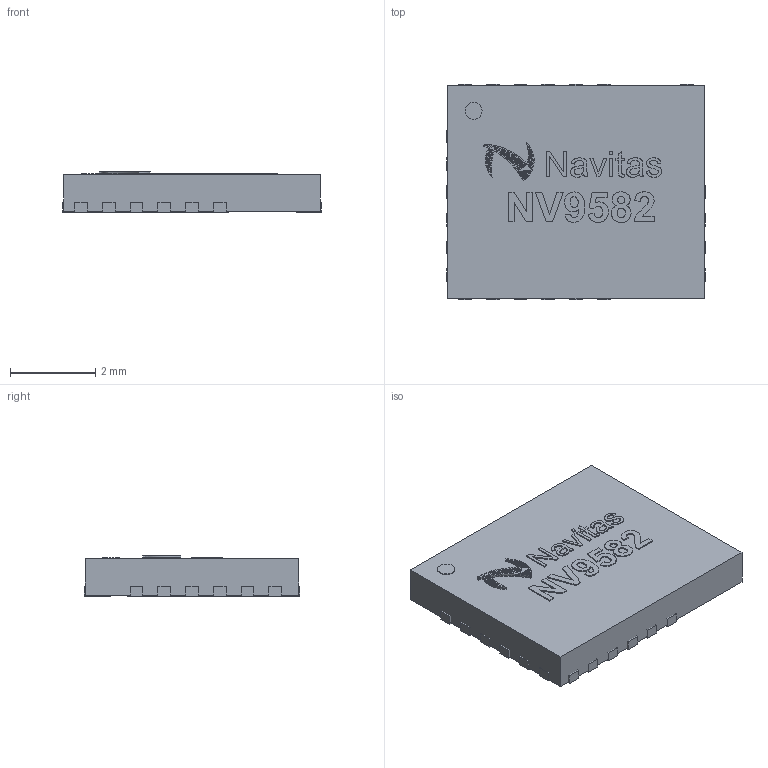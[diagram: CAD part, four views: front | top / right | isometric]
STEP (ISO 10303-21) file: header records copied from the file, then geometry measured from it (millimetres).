
FILE_DESCRIPTION(/* description */ (''),/* implementation_level */ '2;1');
FILE_NAME(/* name */ 'NV9582.step',/* time_stamp */ '2023-02-12T11:47:15-08:00',/* author */ (''),/* organization */ (''),/* preprocessor_version */ 'ST-DEVELOPER v19.2',/* originating_system */ 'Autodesk Translation Framework v11.17.0.187',/* authorisation */ '');
FILE_SCHEMA (('AUTOMOTIVE_DESIGN { 1 0 10303 214 3 1 1 }'));
Length unit declared in the file: millimetre
Products named in the file (1): NV9580
Bounding box: 6.05 x 5.05 x 0.94 mm (x, y, z)
Volume: 29.2 mm3; surface area: 126.5 mm2
Topology: 27 solids, 27 shells, 1274 faces, 2391 edges, 1171 vertices
Faces by surface type: plane 1069, bspline 193, cylinder 12
Full cylindrical faces by diameter (mm): 0.4 x1
Entity records: 31371 total; most frequent: CARTESIAN_POINT 8118, ORIENTED_EDGE 4782, DIRECTION 4193, EDGE_CURVE 2391, LINE 1981, VECTOR 1981, EDGE_LOOP 1284, FACE_OUTER_BOUND 1274
